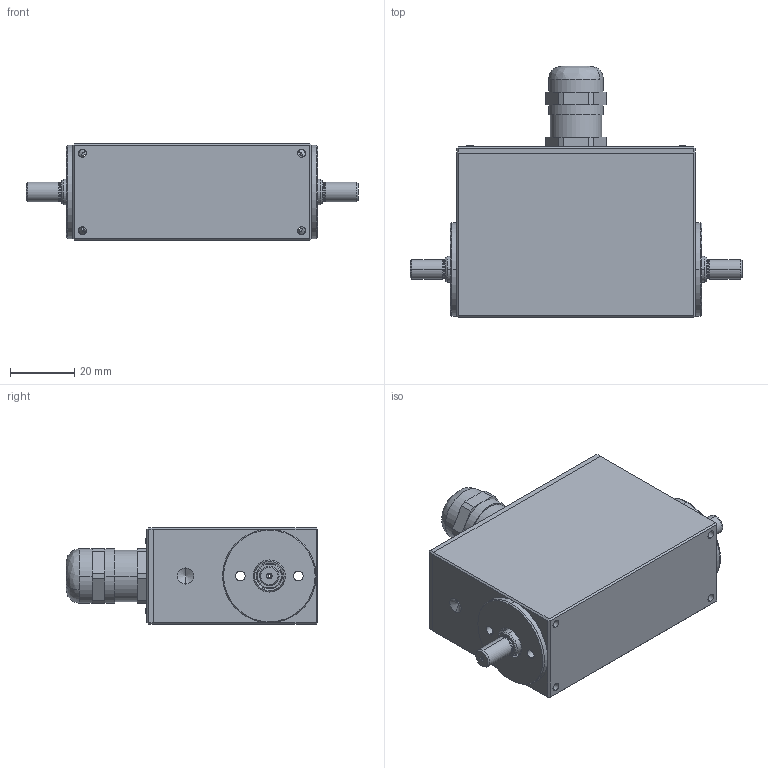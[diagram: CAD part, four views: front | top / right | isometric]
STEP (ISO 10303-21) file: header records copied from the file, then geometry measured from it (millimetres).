
FILE_DESCRIPTION (( 'STEP AP203' ), '1' );
FILE_NAME ('DRWPL-I.STEP', '2014-05-13T07:59:15', ( 'nsi' ), ( '' ), 'SwSTEP 2.0', 'SolidWorks 2014', '' );
FILE_SCHEMA (( 'CONFIG_CONTROL_DESIGN' ));
Length unit declared in the file: millimetre
Products named in the file (1): DRWPL-I
Bounding box: 103 x 78 x 30 mm (x, y, z)
Surface area: 19739.9 mm2 (no closed solid volume)
Topology: 0 solids, 15 shells, 275 faces, 725 edges, 467 vertices
Faces by surface type: plane 131, cylinder 84, cone 42, bspline 18
Entity records: 9634 total; most frequent: CARTESIAN_POINT 2819, DIRECTION 1445, ORIENTED_EDGE 1310, EDGE_CURVE 723, AXIS2_PLACEMENT_3D 533, VERTEX_POINT 467, LINE 379, VECTOR 379
